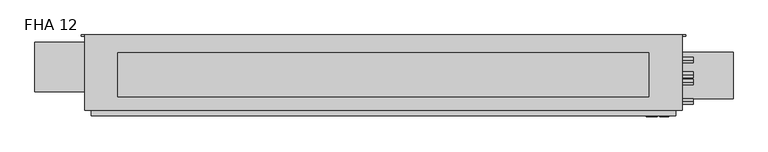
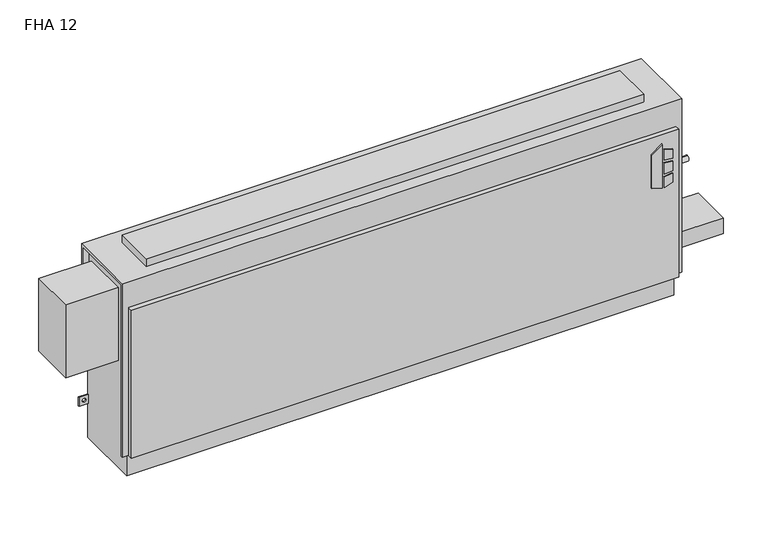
"""IFC4 building model written with IfcOpenShell, lengths in millimetres: proxy geometry, Vertical_Fan_Coil_Unit_-_FHA_-_IEC_-_4-Pipe_TS-FR_RH_2022 : FHA 12."""

from ifc_helpers import new_model, si_unit, point, frame, frame_2d, origin, place, context, project, spatial, polyline, circle_curve, trimmed, segment, composite_curve, outline, extrude, source, transform, mapped, element, save
from ifc_brep_helpers import plane_surface, revolved_surface, advanced_brep


def fha_12_ffb116b9(model_context):
    return source(origin(), model_context, "Body", "SolidModel", [
        extrude(outline(polyline([(391.6086829, 906.5368862), (381.6606126, 938.7102728), (523.831537, 938.7102728), (500.8095309, 906.5368862), (391.6086829, 906.5368862)])), frame((0.0, 9.525, 0.0), z_axis=(0.0, 1.0, 0.0), x_axis=(0.0, 0.0, 1.0)), (0.0, 0.0, 1.0), 3.175),
        extrude(outline(polyline([(470.6079683, 945.4686058), (467.4055757, 971.55), (496.6344168, 971.55), (504.6988318, 945.4686058), (470.6079683, 945.4686058)])), frame((0.0, 9.525, 0.0), z_axis=(0.0, 1.0, 0.0), x_axis=(0.0, 0.0, 1.0)), (0.0, 0.0, 1.0), 3.175),
        extrude(outline(polyline([(418.7444414, 971.55), (415.0789404, 945.4686058), (381.6606126, 945.4686058), (390.2948498, 971.55), (418.7444414, 971.55)])), frame((0.0, 9.525, 0.0), z_axis=(0.0, 1.0, 0.0), x_axis=(0.0, 0.0, 1.0)), (0.0, 0.0, 1.0), 3.175),
        extrude(outline(polyline([(458.0596028, 971.55), (460.3414292, 945.4686058), (424.4038806, 945.4686058), (427.1451456, 971.55), (458.0596028, 971.55)])), frame((0.0, 9.525, 0.0), z_axis=(0.0, 1.0, 0.0), x_axis=(0.0, 0.0, 1.0)), (0.0, 0.0, 1.0), 3.175),
        extrude(outline(composite_curve([segment(trimmed(circle_curve(frame_2d((1054.1, 128.5875)), 9.525), [point((1044.575, 128.5875))], [point((1063.625, 128.5875))], False, "CARTESIAN"), True, "CONTINUOUS"), segment(trimmed(circle_curve(frame_2d((1054.1, 128.5875)), 9.525), [point((1063.625, 128.5875))], [point((1044.575, 128.5875))], False, "CARTESIAN"), True, "CONTINUOUS")], self_intersect=False)), frame((0.0, 0.0, 101.6), z_axis=(0.0, 0.0, 1.0), x_axis=(1.0, 0.0, 0.0)), (0.0, 0.0, 1.0), 25.4),
        extrude(outline(polyline([(1155.7, 195.2625), (1155.7, 61.9125), (990.6, 61.9125), (990.6, 195.2625), (1155.7, 195.2625)])), frame((0.0, 0.0, 127.0), z_axis=(0.0, 0.0, 1.0), x_axis=(1.0, 0.0, 0.0)), (0.0, 0.0, 1.0), 50.8),
        extrude(outline(polyline([(914.4, 193.675), (914.4, 66.675), (-609.6, 66.675), (-609.6, 193.675), (914.4, 193.675)])), frame((0.0, 0.0, 635.0), z_axis=(0.0, 0.0, 1.0), x_axis=(1.0, 0.0, 0.0)), (0.0, 0.0, 1.0), 25.4),
        extrude(outline(composite_curve([segment(trimmed(circle_curve(frame_2d((109.0168, 457.2)), 7.9375), [point((109.0168, 449.2625))], [point((109.0168, 465.1375))], False, "CARTESIAN"), True, "CONTINUOUS"), segment(trimmed(circle_curve(frame_2d((109.0168, 457.2)), 7.9375), [point((109.0168, 465.1375))], [point((109.0168, 449.2625))], False, "CARTESIAN"), True, "CONTINUOUS")], self_intersect=False)), frame((990.6, 0.0, 0.0), z_axis=(1.0, 0.0, 0.0), x_axis=(0.0, 1.0, 0.0)), (0.0, 0.0, 1.0), 50.8),
        extrude(outline(composite_curve([segment(trimmed(circle_curve(frame_2d((172.085, 460.0194)), 7.9375), [point((172.085, 452.0819))], [point((172.085, 467.9569))], False, "CARTESIAN"), True, "CONTINUOUS"), segment(trimmed(circle_curve(frame_2d((172.085, 460.0194)), 7.9375), [point((172.085, 467.9569))], [point((172.085, 452.0819))], False, "CARTESIAN"), True, "CONTINUOUS")], self_intersect=False)), frame((990.6, 0.0, 0.0), z_axis=(1.0, 0.0, 0.0), x_axis=(0.0, 1.0, 0.0)), (0.0, 0.0, 1.0), 50.8),
        extrude(outline(composite_curve([segment(trimmed(circle_curve(frame_2d((130.175, 554.99)), 7.9502), [point((130.175, 547.0398))], [point((130.175, 562.9402))], False, "CARTESIAN"), True, "CONTINUOUS"), segment(trimmed(circle_curve(frame_2d((130.175, 554.99)), 7.9502), [point((130.175, 562.9402))], [point((130.175, 547.0398))], False, "CARTESIAN"), True, "CONTINUOUS")], self_intersect=False)), frame((990.6, 0.0, 0.0), z_axis=(1.0, 0.0, 0.0), x_axis=(0.0, 1.0, 0.0)), (0.0, 0.0, 1.0), 50.8),
        extrude(outline(composite_curve([segment(trimmed(circle_curve(frame_2d((53.975, 416.56)), 7.9502), [point((53.975, 408.6098))], [point((53.975, 424.5102))], False, "CARTESIAN"), True, "CONTINUOUS"), segment(trimmed(circle_curve(frame_2d((53.975, 416.56)), 7.9502), [point((53.975, 424.5102))], [point((53.975, 408.6098))], False, "CARTESIAN"), True, "CONTINUOUS")], self_intersect=False)), frame((990.6, 0.0, 0.0), z_axis=(1.0, 0.0, 0.0), x_axis=(0.0, 1.0, 0.0)), (0.0, 0.0, 1.0), 50.8),
        extrude(outline(polyline([(-847.725, 223.266), (-685.8, 223.266), (-685.8, 81.534), (-847.725, 81.534), (-847.725, 223.266)])), frame((0.0, 0.0, 349.25), z_axis=(0.0, 0.0, 1.0), x_axis=(1.0, 0.0, 0.0)), (0.0, 0.0, 1.0), 234.95),
        advanced_brep(
        [(1009.65, 244.475, 635.0), (-704.85, 244.475, 635.0), (-704.85, 28.575, 635.0), (1009.65, 28.575, 635.0), (-685.8, 244.475, 0.0), (990.6, 244.475, 0.0), (990.6, 38.1, 0.0), (-685.8, 38.1, 0.0), (1009.65, 244.475, 558.8), (990.6, 244.475, 558.8), (990.6, 244.475, 414.3375), (1019.175, 244.475, 414.3375), (1019.175, 244.475, 385.7625), (990.6, 244.475, 385.7625), (990.6, 244.475, 287.3375), (1019.175, 244.475, 287.3375), (1019.175, 244.475, 258.7625), (990.6, 244.475, 258.7625), (990.6, 244.475, 141.2875), (1019.175, 244.475, 141.2875), (1019.175, 244.475, 112.7125), (990.6, 244.475, 112.7125), (-685.8, 244.475, 112.7125), (-714.375, 244.475, 112.7125), (-714.375, 244.475, 141.2875), (-685.8, 244.475, 141.2875), (-685.8, 244.475, 258.7625), (-714.375, 244.475, 258.7625), (-714.375, 244.475, 287.3375), (-685.8, 244.475, 287.3375), (-685.8, 244.475, 385.7625), (-714.375, 244.475, 385.7625), (-714.375, 244.475, 414.3375), (-685.8, 244.475, 414.3375), (-685.8, 244.475, 558.8), (-704.85, 244.475, 558.8), (1008.8626, 244.475, 127.0), (997.7374, 244.475, 127.0), (-692.9374, 244.475, 127.0), (-704.0626, 244.475, 127.0), (1008.8626, 244.475, 273.05), (997.7374, 244.475, 273.05), (-692.9374, 244.475, 273.05), (-704.0626, 244.475, 273.05), (1008.8626, 244.475, 400.05), (997.7374, 244.475, 400.05), (-692.9374, 244.475, 400.05), (-704.0626, 244.475, 400.05), (-704.85, 238.125, 558.8), (-704.85, 238.125, 628.65), (-704.85, 34.925, 628.65), (-704.85, 34.925, 73.025), (-704.85, 28.575, 73.025), (990.6, 12.7, 552.45), (-685.8, 12.7, 552.45), (-685.8, 12.7, 73.025), (990.6, 12.7, 73.025), (1009.65, 28.575, 73.025), (1009.65, 34.925, 73.025), (1009.65, 34.925, 628.65), (1009.65, 238.125, 628.65), (1009.65, 238.125, 558.8), (-685.8, 28.575, 73.025), (-685.8, 28.575, 552.45), (990.6, 28.575, 552.45), (990.6, 28.575, 73.025), (-685.8, 34.925, 73.025), (-685.8, 38.1, 73.025), (990.6, 38.1, 73.025), (990.6, 34.925, 73.025), (990.6, 241.3, 112.7125), (990.6, 241.3, 141.2875), (990.6, 241.3, 258.7625), (990.6, 241.3, 287.3375), (990.6, 241.3, 385.7625), (990.6, 241.3, 414.3375), (990.6, 238.125, 558.8), (990.6, 238.125, 628.65), (990.6, 34.925, 628.65), (-685.8, 34.925, 628.65), (-685.8, 238.125, 628.65), (-685.8, 238.125, 558.8), (-685.8, 241.3, 414.3375), (-685.8, 241.3, 385.7625), (-685.8, 241.3, 287.3375), (-685.8, 241.3, 258.7625), (-685.8, 241.3, 141.2875), (-685.8, 241.3, 112.7125), (1019.175, 241.3, 112.7125), (1019.175, 241.3, 141.2875), (997.7374, 241.3, 127.0), (1008.8626, 241.3, 127.0), (1019.175, 241.3, 258.7625), (1019.175, 241.3, 287.3375), (997.7374, 241.3, 273.05), (1008.8626, 241.3, 273.05), (1019.175, 241.3, 385.7625), (1019.175, 241.3, 414.3375), (997.7374, 241.3, 400.05), (1008.8626, 241.3, 400.05), (-714.375, 241.3, 141.2875), (-714.375, 241.3, 112.7125), (-704.0626, 241.3, 127.0), (-692.9374, 241.3, 127.0), (-714.375, 241.3, 287.3375), (-714.375, 241.3, 258.7625), (-704.0626, 241.3, 273.05), (-692.9374, 241.3, 273.05), (-714.375, 241.3, 414.3375), (-714.375, 241.3, 385.7625), (-704.0626, 241.3, 400.05), (-692.9374, 241.3, 400.05)],
        [
            (0, 1),
            (1, 2),
            (2, 3),
            (3, 0),
            (4, 5),
            (5, 6),
            (6, 7),
            (7, 4),
            (0, 8),
            (8, 9),
            (9, 10),
            (10, 11),
            (11, 12),
            (12, 13),
            (13, 14),
            (14, 15),
            (15, 16),
            (16, 17),
            (17, 18),
            (18, 19),
            (19, 20),
            (20, 21),
            (21, 5),
            (4, 22),
            (22, 23),
            (23, 24),
            (24, 25),
            (25, 26),
            (26, 27),
            (27, 28),
            (28, 29),
            (29, 30),
            (30, 31),
            (31, 32),
            (32, 33),
            (33, 34),
            (34, 35),
            (35, 1),
            (36, 37, circle_curve(frame((1003.3, 244.475, 127.0), z_axis=(0.0, -1.0, 0.0), x_axis=(-1.0, 0.0, 0.0)), 5.5626)),
            (37, 36, circle_curve(frame((1003.3, 244.475, 127.0), z_axis=(0.0, -1.0, 0.0), x_axis=(-1.0, 0.0, 0.0)), 5.5626)),
            (38, 39, circle_curve(frame((-698.5, 244.475, 127.0), z_axis=(0.0, -1.0, 0.0), x_axis=(-1.0, 0.0, 0.0)), 5.5626)),
            (39, 38, circle_curve(frame((-698.5, 244.475, 127.0), z_axis=(0.0, -1.0, 0.0), x_axis=(-1.0, 0.0, 0.0)), 5.5626)),
            (40, 41, circle_curve(frame((1003.3, 244.475, 273.05), z_axis=(0.0, -1.0, 0.0), x_axis=(-1.0, 0.0, 0.0)), 5.5626)),
            (41, 40, circle_curve(frame((1003.3, 244.475, 273.05), z_axis=(0.0, -1.0, 0.0), x_axis=(-1.0, 0.0, 0.0)), 5.5626)),
            (42, 43, circle_curve(frame((-698.5, 244.475, 273.05), z_axis=(0.0, -1.0, 0.0), x_axis=(-1.0, 0.0, 0.0)), 5.5626)),
            (43, 42, circle_curve(frame((-698.5, 244.475, 273.05), z_axis=(0.0, -1.0, 0.0), x_axis=(-1.0, 0.0, 0.0)), 5.5626)),
            (44, 45, circle_curve(frame((1003.3, 244.475, 400.05), z_axis=(0.0, -1.0, 0.0), x_axis=(-1.0, 0.0, 0.0)), 5.5626)),
            (45, 44, circle_curve(frame((1003.3, 244.475, 400.05), z_axis=(0.0, -1.0, 0.0), x_axis=(-1.0, 0.0, 0.0)), 5.5626)),
            (46, 47, circle_curve(frame((-698.5, 244.475, 400.05), z_axis=(0.0, -1.0, 0.0), x_axis=(-1.0, 0.0, 0.0)), 5.5626)),
            (47, 46, circle_curve(frame((-698.5, 244.475, 400.05), z_axis=(0.0, -1.0, 0.0), x_axis=(-1.0, 0.0, 0.0)), 5.5626)),
            (35, 48),
            (48, 49),
            (49, 50),
            (50, 51),
            (51, 52),
            (52, 2),
            (53, 54),
            (54, 55),
            (55, 56),
            (56, 53),
            (3, 57),
            (57, 58),
            (58, 59),
            (59, 60),
            (60, 61),
            (61, 8),
            (52, 62),
            (62, 63),
            (63, 64),
            (64, 65),
            (65, 57),
            (53, 64),
            (63, 54),
            (55, 62),
            (51, 66),
            (66, 67),
            (67, 68),
            (68, 69),
            (69, 58),
            (65, 56),
            (6, 68),
            (67, 7),
            (21, 70),
            (70, 71),
            (71, 18),
            (17, 72),
            (72, 73),
            (73, 14),
            (13, 74),
            (74, 75),
            (75, 10),
            (9, 76),
            (76, 77),
            (77, 78),
            (78, 69),
            (66, 79),
            (79, 80),
            (80, 81),
            (81, 34),
            (33, 82),
            (82, 83),
            (83, 30),
            (29, 84),
            (84, 85),
            (85, 26),
            (25, 86),
            (86, 87),
            (87, 22),
            (76, 61),
            (60, 77),
            (78, 59),
            (50, 79),
            (81, 48),
            (80, 49),
            (70, 88),
            (88, 89),
            (89, 71),
            (90, 91, circle_curve(frame((1003.3, 241.3, 127.0), z_axis=(0.0, 1.0, 0.0), x_axis=(-1.0, 0.0, 0.0)), 5.5626)),
            (91, 90, circle_curve(frame((1003.3, 241.3, 127.0), z_axis=(0.0, 1.0, 0.0), x_axis=(-1.0, 0.0, 0.0)), 5.5626)),
            (92, 93),
            (93, 73),
            (72, 92),
            (94, 95, circle_curve(frame((1003.3, 241.3, 273.05), z_axis=(0.0, 1.0, 0.0), x_axis=(-1.0, 0.0, 0.0)), 5.5626)),
            (95, 94, circle_curve(frame((1003.3, 241.3, 273.05), z_axis=(0.0, 1.0, 0.0), x_axis=(-1.0, 0.0, 0.0)), 5.5626)),
            (96, 97),
            (97, 75),
            (74, 96),
            (98, 99, circle_curve(frame((1003.3, 241.3, 400.05), z_axis=(0.0, 1.0, 0.0), x_axis=(-1.0, 0.0, 0.0)), 5.5626)),
            (99, 98, circle_curve(frame((1003.3, 241.3, 400.05), z_axis=(0.0, 1.0, 0.0), x_axis=(-1.0, 0.0, 0.0)), 5.5626)),
            (100, 101),
            (101, 87),
            (86, 100),
            (102, 103, circle_curve(frame((-698.5, 241.3, 127.0), z_axis=(0.0, 1.0, 0.0), x_axis=(-1.0, 0.0, 0.0)), 5.5626)),
            (103, 102, circle_curve(frame((-698.5, 241.3, 127.0), z_axis=(0.0, 1.0, 0.0), x_axis=(-1.0, 0.0, 0.0)), 5.5626)),
            (84, 104),
            (104, 105),
            (105, 85),
            (106, 107, circle_curve(frame((-698.5, 241.3, 273.05), z_axis=(0.0, 1.0, 0.0), x_axis=(-1.0, 0.0, 0.0)), 5.5626)),
            (107, 106, circle_curve(frame((-698.5, 241.3, 273.05), z_axis=(0.0, 1.0, 0.0), x_axis=(-1.0, 0.0, 0.0)), 5.5626)),
            (108, 109),
            (109, 83),
            (82, 108),
            (110, 111, circle_curve(frame((-698.5, 241.3, 400.05), z_axis=(0.0, 1.0, 0.0), x_axis=(-1.0, 0.0, 0.0)), 5.5626)),
            (111, 110, circle_curve(frame((-698.5, 241.3, 400.05), z_axis=(0.0, 1.0, 0.0), x_axis=(-1.0, 0.0, 0.0)), 5.5626)),
            (89, 19),
            (88, 20),
            (16, 92),
            (93, 15),
            (12, 96),
            (97, 11),
            (24, 100),
            (101, 23),
            (105, 27),
            (104, 28),
            (32, 108),
            (109, 31),
            (90, 37),
            (36, 91),
            (102, 39),
            (38, 103),
            (94, 41),
            (40, 95),
            (106, 43),
            (42, 107),
            (98, 45),
            (44, 99),
            (110, 47),
            (46, 111),
        ],
        [
            plane_surface(frame((-704.85, 244.475, 635.0), z_axis=(0.0, 0.0, 1.0), x_axis=(-1.0, 0.0, 0.0))),
            plane_surface(frame((-704.85, 244.475, 0.0), z_axis=(0.0, 0.0, -1.0), x_axis=(1.0, 0.0, 0.0))),
            plane_surface(frame((1009.65, 244.475, 635.0), z_axis=(0.0, 1.0, 0.0), x_axis=(0.0, 0.0, -1.0))),
            plane_surface(frame((-704.85, 244.475, 635.0), z_axis=(-1.0, 0.0, 0.0), x_axis=(0.0, 0.0, -1.0))),
            plane_surface(frame((-704.85, 12.7, 635.0), z_axis=(0.0, -1.0, 0.0), x_axis=(0.0, 0.0, -1.0))),
            plane_surface(frame((1009.65, 12.7, 635.0), z_axis=(1.0, 0.0, 0.0), x_axis=(0.0, 0.0, -1.0))),
            plane_surface(frame((-1263.65, 28.575, 635.0), z_axis=(0.0, -1.0, 0.0), x_axis=(1.0, 0.0, 0.0))),
            plane_surface(frame((-1263.65, 28.575, 552.45), z_axis=(0.0, 0.0, 1.0), x_axis=(1.0, 0.0, 0.0))),
            plane_surface(frame((-704.85, 12.7, 73.025), z_axis=(0.0, 0.0, -1.0), x_axis=(1.0, 0.0, 0.0))),
            plane_surface(frame((-704.85, 38.1, 73.025), z_axis=(0.0, -1.0, 0.0), x_axis=(1.0, 0.0, 0.0))),
            plane_surface(frame((990.6, 28.575, 73.025), z_axis=(1.0, 0.0, 0.0), x_axis=(0.0, -1.0, 0.0))),
            plane_surface(frame((-685.8, 28.575, 552.45), z_axis=(-1.0, 0.0, 0.0), x_axis=(0.0, -1.0, 0.0))),
            plane_surface(frame((990.6, 244.475, 0.0), z_axis=(1.0, 0.0, 0.0), x_axis=(0.0, -1.0, 0.0))),
            plane_surface(frame((-685.8, 244.475, 73.025), z_axis=(-1.0, 0.0, 0.0), x_axis=(0.0, -1.0, 0.0))),
            plane_surface(frame((990.6, 238.125, 628.65), z_axis=(0.0, -1.0, 0.0), x_axis=(1.0, 0.0, 0.0))),
            plane_surface(frame((990.6, 238.125, 558.8), z_axis=(0.0, 0.0, -1.0), x_axis=(1.0, 0.0, 0.0))),
            plane_surface(frame((990.6, 34.925, 73.025), z_axis=(0.0, 1.0, 0.0), x_axis=(1.0, 0.0, 0.0))),
            plane_surface(frame((990.6, 34.925, 628.65), z_axis=(0.0, 0.0, -1.0), x_axis=(1.0, 0.0, 0.0))),
            plane_surface(frame((-685.8, 34.925, 628.65), z_axis=(0.0, 1.0, 0.0), x_axis=(-1.0, 0.0, 0.0))),
            plane_surface(frame((-685.8, 244.475, 558.8), z_axis=(0.0, 0.0, -1.0), x_axis=(-1.0, 0.0, 0.0))),
            plane_surface(frame((-685.8, 238.125, 558.8), z_axis=(0.0, -1.0, 0.0), x_axis=(-1.0, 0.0, 0.0))),
            plane_surface(frame((-685.8, 238.125, 628.65), z_axis=(0.0, 0.0, -1.0), x_axis=(-1.0, 0.0, 0.0))),
            plane_surface(frame((1019.175, 241.3, 141.2875), z_axis=(0.0, -1.0, 0.0), x_axis=(-1.0, 0.0, 0.0))),
            plane_surface(frame((990.6, 244.475, 141.2875), z_axis=(0.0, 0.0, 1.0), x_axis=(0.0, -1.0, 0.0))),
            plane_surface(frame((1019.175, 244.475, 141.2875), z_axis=(1.0, 0.0, 0.0), x_axis=(0.0, -1.0, 0.0))),
            plane_surface(frame((1019.175, 244.475, 112.7125), z_axis=(0.0, 0.0, -1.0), x_axis=(0.0, -1.0, 0.0))),
            plane_surface(frame((1019.175, 244.475, 258.7625), z_axis=(0.0, 0.0, -1.0), x_axis=(0.0, -1.0, 0.0))),
            plane_surface(frame((990.6, 244.475, 287.3375), z_axis=(0.0, 0.0, 1.0), x_axis=(0.0, -1.0, 0.0))),
            plane_surface(frame((1019.175, 244.475, 287.3375), z_axis=(1.0, 0.0, 0.0), x_axis=(0.0, -1.0, 0.0))),
            plane_surface(frame((1019.175, 244.475, 385.7625), z_axis=(0.0, 0.0, -1.0), x_axis=(0.0, -1.0, 0.0))),
            plane_surface(frame((990.6, 244.475, 414.3375), z_axis=(0.0, 0.0, 1.0), x_axis=(0.0, -1.0, 0.0))),
            plane_surface(frame((1019.175, 244.475, 414.3375), z_axis=(1.0, 0.0, 0.0), x_axis=(0.0, -1.0, 0.0))),
            plane_surface(frame((-714.375, 244.475, 141.2875), z_axis=(0.0, 0.0, 1.0), x_axis=(0.0, -1.0, 0.0))),
            plane_surface(frame((-685.8, 244.475, 112.7125), z_axis=(0.0, 0.0, -1.0), x_axis=(0.0, -1.0, 0.0))),
            plane_surface(frame((-714.375, 244.475, 112.7125), z_axis=(-1.0, 0.0, 0.0), x_axis=(0.0, -1.0, 0.0))),
            plane_surface(frame((-685.8, 244.475, 258.7625), z_axis=(0.0, 0.0, -1.0), x_axis=(0.0, -1.0, 0.0))),
            plane_surface(frame((-714.375, 244.475, 258.7625), z_axis=(-1.0, 0.0, 0.0), x_axis=(0.0, -1.0, 0.0))),
            plane_surface(frame((-714.375, 244.475, 287.3375), z_axis=(0.0, 0.0, 1.0), x_axis=(0.0, -1.0, 0.0))),
            plane_surface(frame((-714.375, 244.475, 414.3375), z_axis=(0.0, 0.0, 1.0), x_axis=(0.0, -1.0, 0.0))),
            plane_surface(frame((-685.8, 244.475, 385.7625), z_axis=(0.0, 0.0, -1.0), x_axis=(0.0, -1.0, 0.0))),
            plane_surface(frame((-714.375, 244.475, 385.7625), z_axis=(-1.0, 0.0, 0.0), x_axis=(0.0, -1.0, 0.0))),
            revolved_surface(polyline([(997.7374, 241.3, 127.0), (997.7374, 244.475, 127.0)]), (1003.3, 244.475, 127.0), (0.0, -1.0, 0.0)),
            revolved_surface(polyline([(-704.0626, 241.3, 127.0), (-704.0626, 244.475, 127.0)]), (-698.5, 244.475, 127.0), (0.0, -1.0, 0.0)),
            revolved_surface(polyline([(997.7374, 241.3, 273.05), (997.7374, 244.475, 273.05)]), (1003.3, 244.475, 273.05), (0.0, -1.0, 0.0)),
            revolved_surface(polyline([(-704.0626, 241.3, 273.05), (-704.0626, 244.475, 273.05)]), (-698.5, 244.475, 273.05), (0.0, -1.0, 0.0)),
            revolved_surface(polyline([(997.7374, 241.3, 400.05), (997.7374, 244.475, 400.05)]), (1003.3, 244.475, 400.05), (0.0, -1.0, 0.0)),
            revolved_surface(polyline([(-704.0626, 241.3, 400.05), (-704.0626, 244.475, 400.05)]), (-698.5, 244.475, 400.05), (0.0, -1.0, 0.0)),
        ],
        [
            (0, [[1, 2, 3, 4]]),
            (1, [[5, 6, 7, 8]]),
            (2, [[-1, 9, 10, 11, 12, 13, 14, 15, 16, 17, 18, 19, 20, 21, 22, 23, -5, 24, 25, 26, 27, 28, 29, 30, 31, 32, 33, 34, 35, 36, 37, 38], [39, 40], [41, 42], [43, 44], [45, 46], [47, 48], [49, 50]]),
            (3, [[-2, -38, 51, 52, 53, 54, 55, 56]]),
            (4, [[57, 58, 59, 60]]),
            (5, [[-4, 61, 62, 63, 64, 65, 66, -9]]),
            (6, [[-3, -56, 67, 68, 69, 70, 71, -61]]),
            (7, [[-57, 72, -69, 73]]),
            (8, [[-59, 74, -67, -55, 75, 76, 77, 78, 79, -62, -71, 80]]),
            (9, [[-7, 81, -77, 82]]),
            (10, [[-70, -72, -60, -80]]),
            (11, [[-68, -74, -58, -73]]),
            (12, [[-6, -23, 83, 84, 85, -19, 86, 87, 88, -15, 89, 90, 91, -11, 92, 93, 94, 95, -78, -81]]),
            (13, [[-8, -82, -76, 96, 97, 98, 99, -36, 100, 101, 102, -32, 103, 104, 105, -28, 106, 107, 108, -24]]),
            (14, [[-93, 109, -65, 110]]),
            (15, [[-92, -10, -66, -109]]),
            (16, [[-95, 111, -63, -79]]),
            (17, [[-94, -110, -64, -111]]),
            (18, [[-96, -75, -54, 112]]),
            (19, [[-99, 113, -51, -37]]),
            (20, [[-98, 114, -52, -113]]),
            (21, [[-97, -112, -53, -114]]),
            (22, [[115, 116, 117, -84], [118, 119]]),
            (22, [[120, 121, -87, 122], [123, 124]]),
            (22, [[125, 126, -90, 127], [128, 129]]),
            (22, [[130, 131, -107, 132], [133, 134]]),
            (22, [[135, 136, 137, -104], [138, 139]]),
            (22, [[140, 141, -101, 142], [143, 144]]),
            (23, [[-117, 145, -20, -85]]),
            (24, [[-116, 146, -21, -145]]),
            (25, [[-115, -83, -22, -146]]),
            (26, [[-122, -86, -18, 147]]),
            (27, [[-121, 148, -16, -88]]),
            (28, [[-120, -147, -17, -148]]),
            (29, [[-127, -89, -14, 149]]),
            (30, [[-126, 150, -12, -91]]),
            (31, [[-125, -149, -13, -150]]),
            (32, [[-132, -106, -27, 151]]),
            (33, [[-131, 152, -25, -108]]),
            (34, [[-130, -151, -26, -152]]),
            (35, [[-137, 153, -29, -105]]),
            (36, [[-136, 154, -30, -153]]),
            (37, [[-135, -103, -31, -154]]),
            (38, [[-142, -100, -35, 155]]),
            (39, [[-141, 156, -33, -102]]),
            (40, [[-140, -155, -34, -156]]),
            (41, [[157, -39, 158, -118]]),
            (41, [[-157, -119, -158, -40]]),
            (42, [[159, -41, 160, -133]]),
            (42, [[-159, -134, -160, -42]]),
            (43, [[161, -43, 162, -123]]),
            (43, [[-161, -124, -162, -44]]),
            (44, [[163, -45, 164, -138]]),
            (44, [[-163, -139, -164, -46]]),
            (45, [[165, -47, 166, -128]]),
            (45, [[-165, -129, -166, -48]]),
            (46, [[167, -49, 168, -143]]),
            (46, [[-167, -144, -168, -50]]),
        ],
    ),
    ])


if __name__ == "__main__":
    model = new_model("IFC4")
    model_context = context("Model", 3, world=origin())
    ifc_project = project(units=[si_unit("LENGTHUNIT", "METRE", prefix="MILLI")], contexts=[model_context])
    site = spatial("IfcSite", under=ifc_project)
    building = spatial("IfcBuilding", under=site)
    placement = place(None, origin())
    fha_12_shape = fha_12_ffb116b9(model_context)
    element("IfcBuildingElementProxy", 1, Name="Vertical_Fan_Coil_Unit_-_FHA_-_IEC_-_4-Pipe_TS-FR_RH_2022 : FHA 12", ObjectType="Vertical_Fan_Coil_Unit_-_FHA_-_IEC_-_4-Pipe_TS-FR_RH_2022 : FHA 12", at=placement, inside=building, context=model_context, shape_type="MappedRepresentation", body=[
        mapped(fha_12_shape, transform((0.0, 0.0, 0.0), x_axis=(1.0, 0.0, 0.0), y_axis=(0.0, 1.0, 0.0), z_axis=(0.0, 0.0, 1.0))),
    ])
    save(model, "model.ifc")
